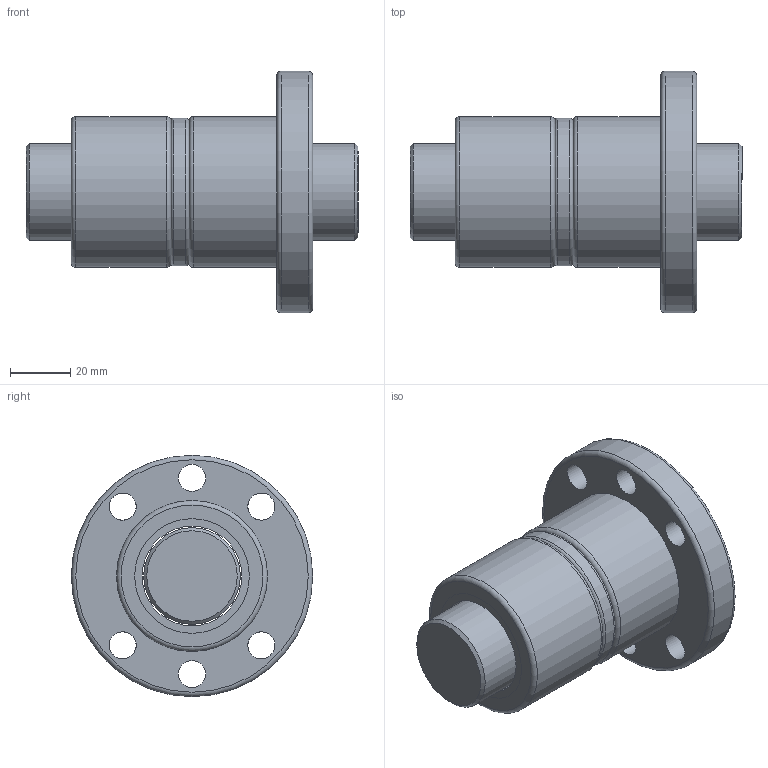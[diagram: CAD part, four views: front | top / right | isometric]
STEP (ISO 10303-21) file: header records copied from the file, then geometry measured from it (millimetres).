
FILE_DESCRIPTION(/* description */ (''),/* implementation_level */ '2;1');
FILE_NAME(/* name */ 'DFU3204',/* time_stamp */ '2007-10-26T10:55:25+08:00',/* author */ (''),/* organization */ (''),/* preprocessor_version */ 'ST-DEVELOPER v9',/* originating_system */ 'EDS PLM SOLUTIONS - UNIGRAPHICS NX 1.0',/* authorisation */ '');
FILE_SCHEMA (('CONFIG_CONTROL_DESIGN'));
Length unit declared in the file: millimetre
Products named in the file (1): FANNDA0400cu
Bounding box: 110 x 80 x 80 mm (x, y, z)
Volume: 208203.6 mm3; surface area: 51148.8 mm2
Topology: 6 solids, 6 shells, 44 faces, 83 edges, 54 vertices
Faces by surface type: cylinder 20, plane 15, torus 7, cone 2
Full cylindrical faces by diameter (mm): 9 x6, 32 x1, 33 x5, 38 x4, 49 x1, 50 x2, 80 x1
Entity records: 1054 total; most frequent: DIRECTION 188, CARTESIAN_POINT 143, EDGE_LOOP 98, ORIENTED_EDGE 98, AXIS2_PLACEMENT_3D 94, FACE_BOUND 81, VERTEX_POINT 49, EDGE_CURVE 49
